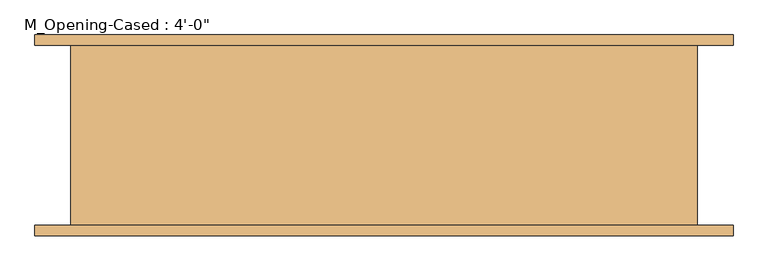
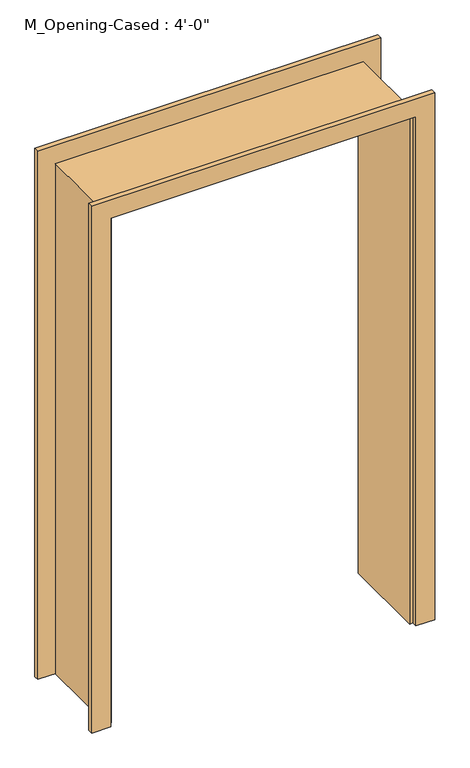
"""IFC4 building model written with IfcOpenShell, lengths in millimetres: door geometry."""

from ifc_helpers import new_model, si_unit, frame, origin, place, context, project, spatial, polyline, outline, extrude, faceted_brep, source, transform, mapped, element, save


def door_5d578f69(model_context):
    return source(origin(), model_context, "Body", "SolidModel", [
        extrude(outline(polyline([(0.0, -611.4386567), (2127.25, -611.4386567), (2127.25, 595.0613433), (0.0, 595.0613433), (0.0, 670.0613433), (2202.25, 670.0613433), (2202.25, -686.4386567), (0.0, -686.4386567), (0.0, -611.4386567)])), frame((0.0, -195.0, 0.0), z_axis=(0.0, 1.0, 0.0), x_axis=(0.0, 0.0, 1.0)), (0.0, 0.0, 1.0), 20.0),
        extrude(outline(polyline([(0.0, 670.0613433), (2207.65, 670.0613433), (2207.65, -686.4386567), (0.0, -686.4386567), (0.0, -611.4386567), (2127.25, -611.4386567), (2127.25, 595.0613433), (0.0, 595.0613433), (0.0, 670.0613433)])), frame((0.0, 175.0, 0.0), z_axis=(0.0, 1.0, 0.0), x_axis=(0.0, 0.0, 1.0)), (0.0, 0.0, 1.0), 20.0),
        faceted_brep([(581.4113433, 175.0, 0.0), (600.4613433, 175.0, 0.0), (600.4613433, -175.0, 0.0), (581.4113433, -175.0, 0.0), (581.4113433, 175.0, 2113.6), (600.4613433, 175.0, 2132.65), (600.4613433, -175.0, 2132.65), (581.4113433, -175.0, 2113.6), (-597.7886567, 175.0, 0.0), (-597.7886567, -175.0, 0.0), (-616.8386567, -175.0, 0.0), (-616.8386567, 175.0, 0.0), (-597.7886567, 175.0, 2113.6), (-597.7886567, -175.0, 2113.6), (-616.8386567, -175.0, 2132.65), (-616.8386567, 175.0, 2132.65)], [[[0, 1, 2, 3]], [[1, 0, 4, 5]], [[2, 1, 5, 6]], [[3, 2, 6, 7]], [[0, 3, 7, 4]], [[8, 9, 10, 11]], [[12, 13, 9, 8]], [[13, 14, 10, 9]], [[14, 15, 11, 10]], [[15, 12, 8, 11]], [[5, 4, 12, 15]], [[6, 5, 15, 14]], [[7, 6, 14, 13]], [[4, 7, 13, 12]]]),
    ])


if __name__ == "__main__":
    model = new_model("IFC4")
    model_context = context("Model", 3, world=origin())
    ifc_project = project(units=[si_unit("LENGTHUNIT", "METRE", prefix="MILLI")], contexts=[model_context])
    site = spatial("IfcSite", under=ifc_project)
    building = spatial("IfcBuilding", under=site)
    placement = place(None, origin())
    door_shape = door_5d578f69(model_context)
    element("IfcDoor", 1, ObjectType="M_Opening-Cased : 4'-0\"", at=placement, inside=building, context=model_context, shape_type="MappedRepresentation", body=[
        mapped(door_shape, transform((0.0, 0.0, 0.0), x_axis=(1.0, 0.0, 0.0), y_axis=(0.0, 1.0, 0.0), z_axis=(0.0, 0.0, 1.0))),
    ])
    save(model, "model.ifc")
